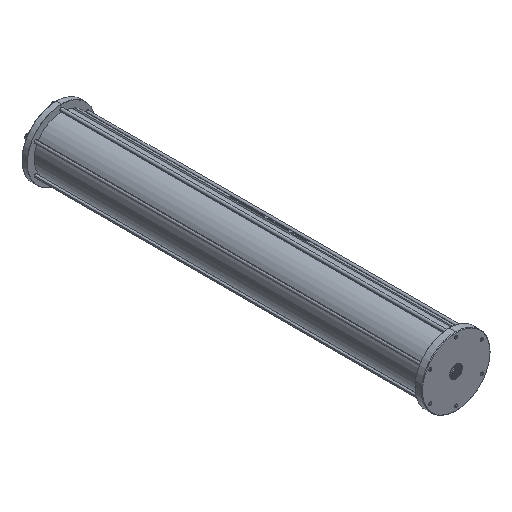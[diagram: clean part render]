
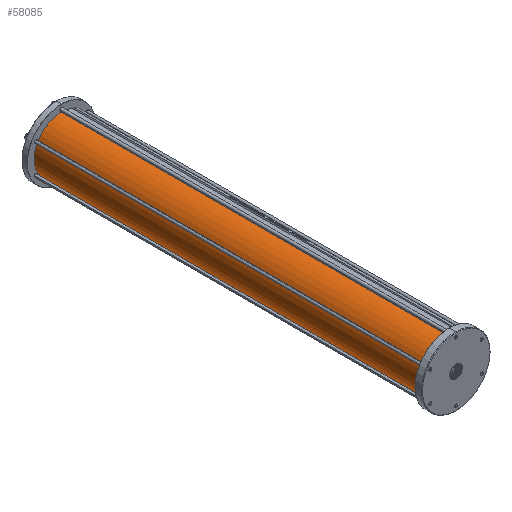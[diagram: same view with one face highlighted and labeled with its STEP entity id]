
A CAD part, isometric view. The second image highlights one B-rep face of the part: STEP entity #58085.
In plain terms, the highlighted cylindrical face has radius 75 mm (diameter 150 mm), a partial arc.
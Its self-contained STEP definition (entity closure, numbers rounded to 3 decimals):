
#2442 = CARTESIAN_POINT ( 'NONE',  ( 40.045, 1108.458, 176.617 ) ) ;
#19164 = AXIS2_PLACEMENT_3D ( 'NONE', #44120, #150362, #151868 ) ;
#21884 = VERTEX_POINT ( 'NONE', #100682 ) ;
#28046 = VECTOR ( 'NONE', #62680, 1000. ) ;
#28441 = EDGE_CURVE ( 'NONE', #152969, #65594, #89492, .T. ) ;
#28545 = AXIS2_PLACEMENT_3D ( 'NONE', #127005, #114606, #115366 ) ;
#29936 = ORIENTED_EDGE ( 'NONE', *, *, #28441, .F. ) ;
#30797 = CARTESIAN_POINT ( 'NONE',  ( 40.045, 1108.458, 26.617 ) ) ;
#33794 = CARTESIAN_POINT ( 'NONE',  ( 40.045, 26.458, 176.617 ) ) ;
#42330 = CARTESIAN_POINT ( 'NONE',  ( 40.045, 26.458, 101.617 ) ) ;
#44120 = CARTESIAN_POINT ( 'NONE',  ( 40.045, 1108.458, 101.617 ) ) ;
#47255 = LINE ( 'NONE', #153466, #28046 ) ;
#48058 = ORIENTED_EDGE ( 'NONE', *, *, #103502, .T. ) ;
#53001 = ORIENTED_EDGE ( 'NONE', *, *, #91071, .F. ) ;
#54544 = DIRECTION ( 'NONE',  ( 0., -1., 0. ) ) ;
#58085 = ADVANCED_FACE ( 'NONE', ( #100020 ), #134125, .T. ) ;
#62680 = DIRECTION ( 'NONE',  ( 0., -1., 0. ) ) ;
#63895 = VERTEX_POINT ( 'NONE', #30797 ) ;
#65594 = VERTEX_POINT ( 'NONE', #33794 ) ;
#77246 = ORIENTED_EDGE ( 'NONE', *, *, #81592, .T. ) ;
#78004 = DIRECTION ( 'NONE',  ( 0., 0., 1. ) ) ;
#81592 = EDGE_CURVE ( 'NONE', #21884, #65594, #133898, .T. ) ;
#86518 = VECTOR ( 'NONE', #54544, 1000. ) ;
#88554 = EDGE_LOOP ( 'NONE', ( #29936, #53001, #48058, #77246 ) ) ;
#89492 = LINE ( 'NONE', #149176, #86518 ) ;
#91071 = EDGE_CURVE ( 'NONE', #63895, #152969, #95472, .T. ) ;
#95472 = CIRCLE ( 'NONE', #28545, 75. ) ;
#100020 = FACE_OUTER_BOUND ( 'NONE', #88554, .T. ) ;
#100682 = CARTESIAN_POINT ( 'NONE',  ( 40.045, 26.458, 26.617 ) ) ;
#103502 = EDGE_CURVE ( 'NONE', #63895, #21884, #47255, .T. ) ;
#114606 = DIRECTION ( 'NONE',  ( 0., 1., 0. ) ) ;
#115366 = DIRECTION ( 'NONE',  ( 0., 0., 1. ) ) ;
#127005 = CARTESIAN_POINT ( 'NONE',  ( 40.045, 1108.458, 101.617 ) ) ;
#133898 = CIRCLE ( 'NONE', #146329, 75. ) ;
#134125 = CYLINDRICAL_SURFACE ( 'NONE', #19164, 75. ) ;
#136893 = DIRECTION ( 'NONE',  ( 0., 1., 0. ) ) ;
#146329 = AXIS2_PLACEMENT_3D ( 'NONE', #42330, #136893, #78004 ) ;
#149176 = CARTESIAN_POINT ( 'NONE',  ( 40.045, 1108.458, 176.617 ) ) ;
#150362 = DIRECTION ( 'NONE',  ( 0., -1., 0. ) ) ;
#151868 = DIRECTION ( 'NONE',  ( 0., 0., -1. ) ) ;
#152969 = VERTEX_POINT ( 'NONE', #2442 ) ;
#153466 = CARTESIAN_POINT ( 'NONE',  ( 40.045, 1108.458, 26.617 ) ) ;
